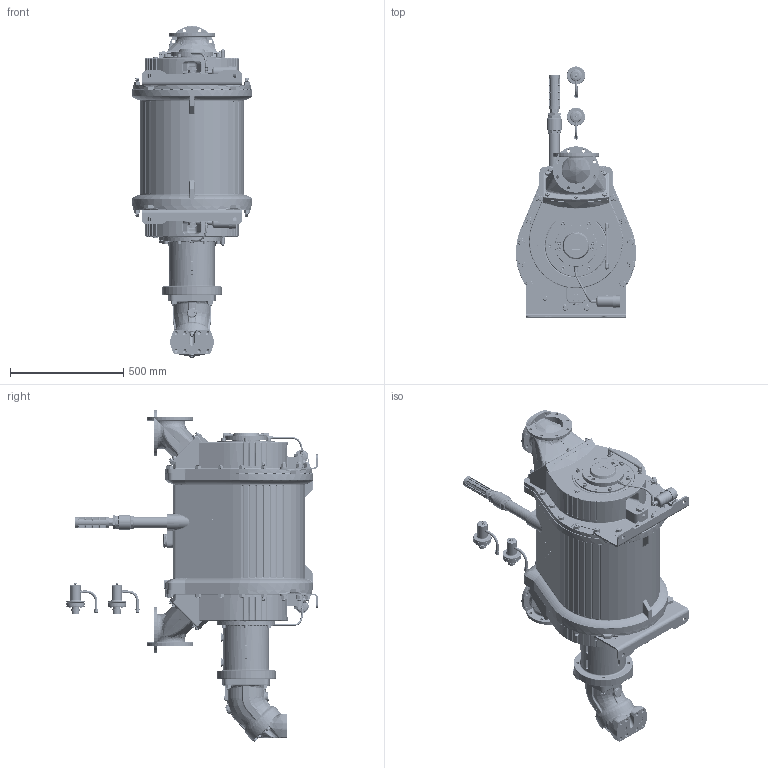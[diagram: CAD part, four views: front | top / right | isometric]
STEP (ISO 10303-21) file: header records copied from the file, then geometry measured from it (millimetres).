
FILE_DESCRIPTION(/* description */ (''),/* implementation_level */ '2;1');
FILE_NAME(/* name */ '1700173.stp',/* time_stamp */ '2026-04-24T10:58:31+02:00',/* author */ ('JJ'),/* organization */ (''),/* preprocessor_version */ 'ST-DEVELOPER v20',/* originating_system */ 'Autodesk Inventor 2025',/* authorisation */ '');
FILE_SCHEMA (('AUTOMOTIVE_DESIGN { 1 0 10303 214 3 1 1 }'));
Products named in the file (69): 1700173; 1659021; 1659049; 910100012; 910200009; 1634823; 1634808; 922000270; 910100022; 910200021; 944600276; 1634824; 1634809; 922000269; 1659046; 915000217; 910300487; 910100191; 944600240; 915000232; 915000225; 915000225-part1; 915000225-part2; 915000217_1; 1634773; 915000215; 1659095; 915000050; 944600355; 944600356; 925000590; 925000587; 1659069; 1659017; 1634666; 1634667; 1634668; 1634130; 1634131; 1634670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
Assembly tree (165 placements, depth 4):
  1700173
    1659017  x4
    1659069  x4
    1659021  x2
    910100022  x16
    910200021  x16
    910100012  x12
    910200009  x12
    1634823  x2
      1634808
      922000270
    1634826  x2
      1634811
      922000266
    1659049  x2
    944600276  x4
    1659046  x2
    1634824  x2
      1634809
      922000269
    915000050  x2
    910300487  x2
    910100191  x2
    944600240  x2
    915000232  x2
    915000225  x2
      915000225-part1
      915000225-part2
    1634773  x2
    915000215  x2
    915000217
    915000217_1
    1659095
    944600355
    944600356
    925000590
    925000587
    1634666  x2
      1634667
      1634668
      1634130
      1634131
      1634670
      1634134
      910200105
      910100125
      910300428
      921000047
      922100045
      922100339
      1634669
      925000651
      910300012
    925000862  x2
    927000134-TM2500  x2
    1659081_Simplify_body
    1636087
      1636088
      922000307
    1659105
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Bounding box: 529.22 x 1107.31 x 1463.52 mm (x, y, z)
Volume: 179964185.9 mm3; surface area: 7188576.5 mm2
Topology: 185 solids, 189 shells, 12221 faces, 31619 edges, 20325 vertices
Faces by surface type: plane 4402, bspline 3538, cylinder 2641, cone 985, torus 463, sphere 192
Full cylindrical faces by diameter (mm): 1.5 x16, 3 x2, 3.2 x4, 3.3 x4, 3.5 x2, 4 x7, 4.134 x4, 4.917 x2, 4.92 x10, 5 x2, 5.3 x2, 6 x48, 6.1 x2, 6.4 x2, 6.5 x8, 8 x40, 8.376 x14, 8.4 x2, 8.5 x3, 8.57 x2, 9.2 x2, 9.7 x2, 9.8 x4, 10 x190, 10.106 x9, 10.5 x12, 11 x63, 11.18 x2, 11.3 x4, 11.445 x8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
Entity records: 647831 total; most frequent: CARTESIAN_POINT 467562, ORIENTED_EDGE 39520, DIRECTION 29967, EDGE_CURVE 19761, VERTEX_POINT 12668, AXIS2_PLACEMENT_3D 11071, EDGE_LOOP 8647, LINE 7825
